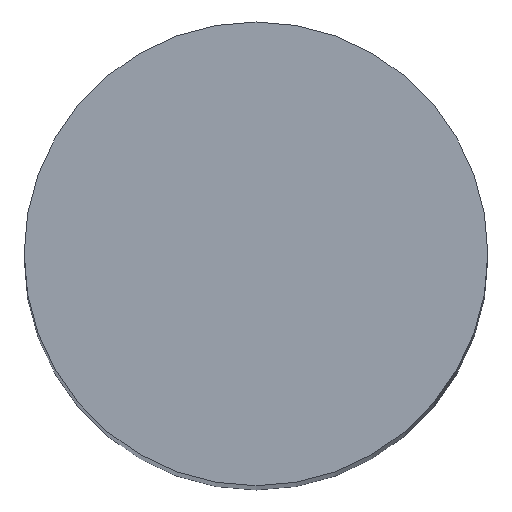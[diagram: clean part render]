
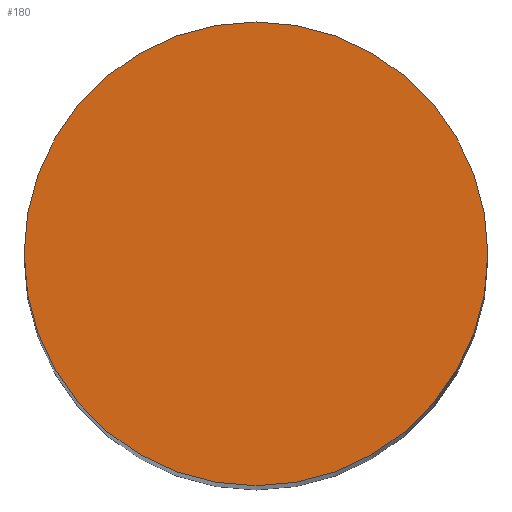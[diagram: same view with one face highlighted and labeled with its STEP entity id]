
A CAD part, top view. The second image highlights one B-rep face of the part: STEP entity #180.
In plain terms, the highlighted planar face has unit normal (0, 0, 1).
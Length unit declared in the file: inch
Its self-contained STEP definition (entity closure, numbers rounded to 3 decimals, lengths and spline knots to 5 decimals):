
#133=CARTESIAN_POINT('',(0.0,-0.25,3.0));
#134=VERTEX_POINT('',#133);
#142=CARTESIAN_POINT('',(0.0,0.25,3.0));
#143=VERTEX_POINT('',#142);
#150=CARTESIAN_POINT('',(0.0,0.0,3.0));
#151=DIRECTION('',(0.0,-0.0,-1.0));
#152=DIRECTION('',(0.0,1.0,-0.0));
#153=AXIS2_PLACEMENT_3D('',#150,#151,#152);
#154=CIRCLE('',#153,0.25);
#155=EDGE_CURVE('no 1299',#143,#134,#154,.T.);
#165=CARTESIAN_POINT('',(0.0,0.0,3.0));
#166=DIRECTION('',(0.0,-0.0,-1.0));
#167=DIRECTION('',(0.0,1.0,-0.0));
#168=AXIS2_PLACEMENT_3D('',#165,#166,#167);
#169=CIRCLE('',#168,0.25);
#170=EDGE_CURVE('no 1303',#134,#143,#169,.T.);
#171=ORIENTED_EDGE('',*,*,#170,.F.);
#172=ORIENTED_EDGE('',*,*,#155,.F.);
#173=EDGE_LOOP('',(#171,#172));
#174=FACE_OUTER_BOUND('',#173,.T.);
#175=CARTESIAN_POINT('',(0.25,0.0,3.0));
#176=DIRECTION('',(0.0,0.0,1.0));
#177=DIRECTION('',(0.0,-1.0,0.0));
#178=AXIS2_PLACEMENT_3D('',#175,#176,#177);
#179=PLANE('',#178);
#180=ADVANCED_FACE('no 1393',(#174),#179,.T.);
